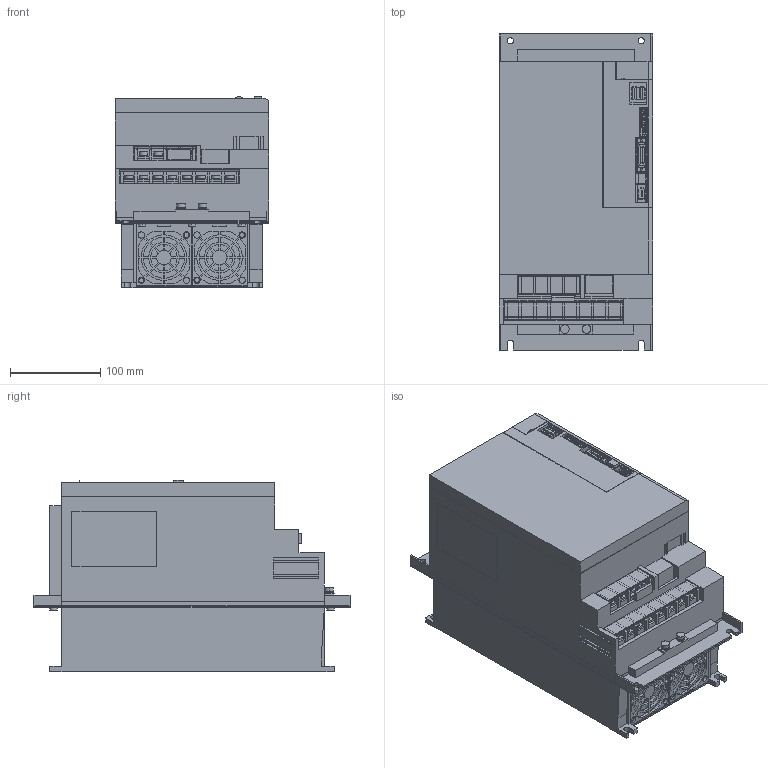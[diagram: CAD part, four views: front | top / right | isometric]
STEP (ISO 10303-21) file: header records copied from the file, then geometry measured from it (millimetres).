
FILE_DESCRIPTION (( 'STEP AP203' ), '1' );
FILE_NAME ('sgd7s_550a10a001.STEP', '2015-09-18T08:31:52', ( '匠エンジニアリング山之内' ), ( 'TAKUMI-Engniaring' ), 'SwSTEP 2.0', 'SolidWorks 2006303', '' );
FILE_SCHEMA (( 'CONFIG_CONTROL_DESIGN' ));
Products named in the file (8): sgd7s_550a10a001_base; sgd7s_550a10a001_terminal; sgd7s_550a10a001_cover4; sgd7s_550a10a001; sgd7s_550a10a001_cover; sgd7s_550a10a001_cover2; sgd7s_550a10a001_connector; sgd7s_550a10a001_cover3
Assembly tree (8 placements, depth 2):
  sgd7s_550a10a001
    sgd7s_550a10a001_cover
    sgd7s_550a10a001_cover4
    sgd7s_550a10a001_cover2  x2
    sgd7s_550a10a001_cover3
    sgd7s_550a10a001_base
    sgd7s_550a10a001_terminal
    sgd7s_550a10a001_connector
Bounding box: 170.5 x 350 x 212.29 mm (x, y, z)
Volume: 8121044.2 mm3; surface area: 910225 mm2
Topology: 8 solids, 8 shells, 2214 faces, 5905 edges, 3904 vertices
Faces by surface type: plane 1834, cylinder 375, cone 4, sphere 1
Entity records: 68439 total; most frequent: CARTESIAN_POINT 11923, ORIENTED_EDGE 11702, DIRECTION 11023, EDGE_CURVE 5851, VECTOR 5087, LINE 5087, VERTEX_POINT 3868, AXIS2_PLACEMENT_3D 2968
